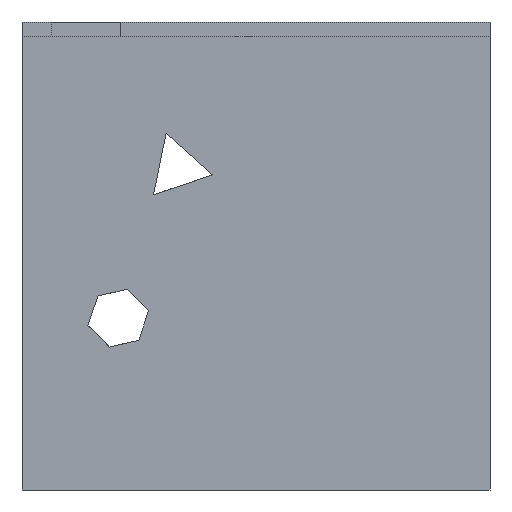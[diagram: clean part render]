
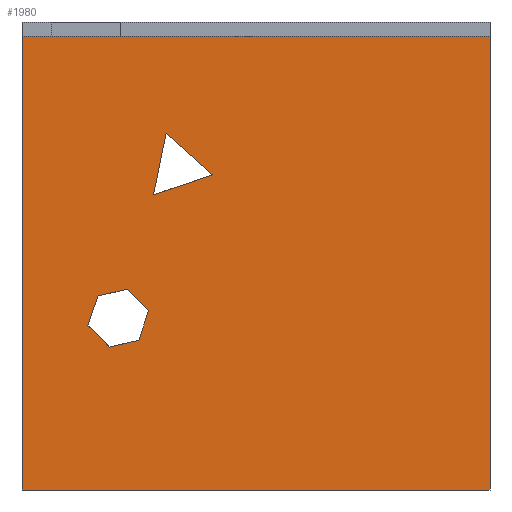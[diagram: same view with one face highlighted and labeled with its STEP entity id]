
A CAD part, front view. The second image highlights one B-rep face of the part: STEP entity #1980.
In plain terms, the highlighted planar face has unit normal (0, -1, 0).
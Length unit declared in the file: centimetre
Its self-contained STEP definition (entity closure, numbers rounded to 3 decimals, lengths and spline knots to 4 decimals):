
#19 = CARTESIAN_POINT ( 'NONE',  ( 0., 0., 969.3231 ) ) ;
#105 = EDGE_LOOP ( 'NONE', ( #2060, #611, #1339, #367 ) ) ;
#116 = FACE_BOUND ( 'NONE', #2016, .T. ) ;
#166 = VERTEX_POINT ( 'NONE', #1953 ) ;
#192 = VECTOR ( 'NONE', #692, 100. ) ;
#214 = VECTOR ( 'NONE', #2324, 100. ) ;
#243 = CARTESIAN_POINT ( 'NONE',  ( 1000., 0., 0. ) ) ;
#245 = DIRECTION ( 'NONE',  ( 0., 0., -1. ) ) ;
#249 = CARTESIAN_POINT ( 'NONE',  ( 1000., 0., 1000. ) ) ;
#265 = LINE ( 'NONE', #249, #1816 ) ;
#314 = EDGE_CURVE ( 'NONE', #328, #729, #1322, .T. ) ;
#328 = VERTEX_POINT ( 'NONE', #2099 ) ;
#331 = DIRECTION ( 'NONE',  ( 0.707, 0., -0.707 ) ) ;
#356 = ORIENTED_EDGE ( 'NONE', *, *, #2411, .T. ) ;
#367 = ORIENTED_EDGE ( 'NONE', *, *, #1511, .T. ) ;
#380 = DIRECTION ( 'NONE',  ( -0.2, 0., -0.98 ) ) ;
#392 = AXIS2_PLACEMENT_3D ( 'NONE', #894, #1666, #2445 ) ;
#400 = CARTESIAN_POINT ( 'NONE',  ( 140.9294, 0., 351.0602 ) ) ;
#411 = CARTESIAN_POINT ( 'NONE',  ( 307.8065, 0., 761.9528 ) ) ;
#448 = CARTESIAN_POINT ( 'NONE',  ( 161.7286, 0., 414.5149 ) ) ;
#488 = ORIENTED_EDGE ( 'NONE', *, *, #314, .F. ) ;
#489 = EDGE_CURVE ( 'NONE', #1643, #328, #1977, .T. ) ;
#502 = LINE ( 'NONE', #1642, #819 ) ;
#510 = VECTOR ( 'NONE', #557, 100. ) ;
#557 = DIRECTION ( 'NONE',  ( -1., 0., 0. ) ) ;
#575 = CARTESIAN_POINT ( 'NONE',  ( 161.7286, 0., 414.5149 ) ) ;
#611 = ORIENTED_EDGE ( 'NONE', *, *, #1899, .T. ) ;
#642 = LINE ( 'NONE', #400, #1752 ) ;
#643 = ORIENTED_EDGE ( 'NONE', *, *, #489, .F. ) ;
#692 = DIRECTION ( 'NONE',  ( -0.975, 0., -0.222 ) ) ;
#729 = VERTEX_POINT ( 'NONE', #2408 ) ;
#739 = ORIENTED_EDGE ( 'NONE', *, *, #936, .T. ) ;
#792 = VERTEX_POINT ( 'NONE', #1444 ) ;
#794 = DIRECTION ( 'NONE',  ( 0.948, 0., 0.317 ) ) ;
#819 = VECTOR ( 'NONE', #1985, 100. ) ;
#857 = EDGE_CURVE ( 'NONE', #2046, #1073, #265, .T. ) ;
#877 = CARTESIAN_POINT ( 'NONE',  ( 186.5792, 0., 305.4105 ) ) ;
#894 = CARTESIAN_POINT ( 'NONE',  ( 0., 0., 1000. ) ) ;
#936 = EDGE_CURVE ( 'NONE', #2437, #1603, #2463, .T. ) ;
#956 = LINE ( 'NONE', #575, #214 ) ;
#977 = CARTESIAN_POINT ( 'NONE',  ( 0., 0., 0. ) ) ;
#1017 = EDGE_CURVE ( 'NONE', #1907, #166, #2070, .T. ) ;
#1024 = VECTOR ( 'NONE', #1765, 100. ) ;
#1056 = EDGE_LOOP ( 'NONE', ( #1904, #488, #643 ) ) ;
#1061 = DIRECTION ( 'NONE',  ( 0., 0., -1. ) ) ;
#1065 = VECTOR ( 'NONE', #245, 100. ) ;
#1073 = VERTEX_POINT ( 'NONE', #243 ) ;
#1084 = DIRECTION ( 'NONE',  ( -0.311, 0., -0.95 ) ) ;
#1098 = CARTESIAN_POINT ( 'NONE',  ( 1000., 0., 969.3231 ) ) ;
#1115 = CARTESIAN_POINT ( 'NONE',  ( 224.7201, 0., 428.8624 ) ) ;
#1173 = CARTESIAN_POINT ( 'NONE',  ( 1000., 0., 969.3231 ) ) ;
#1197 = LINE ( 'NONE', #411, #2298 ) ;
#1212 = VERTEX_POINT ( 'NONE', #2035 ) ;
#1256 = ORIENTED_EDGE ( 'NONE', *, *, #1558, .T. ) ;
#1277 = VECTOR ( 'NONE', #794, 100. ) ;
#1284 = DIRECTION ( 'NONE',  ( -0.749, 0., 0.663 ) ) ;
#1286 = CARTESIAN_POINT ( 'NONE',  ( 281.0834, 0., 630.7301 ) ) ;
#1290 = LINE ( 'NONE', #1857, #1561 ) ;
#1309 = EDGE_CURVE ( 'NONE', #2153, #1907, #956, .T. ) ;
#1322 = LINE ( 'NONE', #2476, #1676 ) ;
#1339 = ORIENTED_EDGE ( 'NONE', *, *, #1808, .T. ) ;
#1384 = ORIENTED_EDGE ( 'NONE', *, *, #1309, .T. ) ;
#1444 = CARTESIAN_POINT ( 'NONE',  ( 0., 0., 0. ) ) ;
#1511 = EDGE_CURVE ( 'NONE', #792, #1073, #2140, .T. ) ;
#1531 = FACE_OUTER_BOUND ( 'NONE', #105, .T. ) ;
#1542 = VERTEX_POINT ( 'NONE', #19 ) ;
#1558 = EDGE_CURVE ( 'NONE', #1212, #2153, #642, .T. ) ;
#1561 = VECTOR ( 'NONE', #1084, 100. ) ;
#1603 = VERTEX_POINT ( 'NONE', #877 ) ;
#1642 = CARTESIAN_POINT ( 'NONE',  ( 186.5792, 0., 305.4105 ) ) ;
#1643 = VERTEX_POINT ( 'NONE', #1286 ) ;
#1666 = DIRECTION ( 'NONE',  ( 0., 1., 0. ) ) ;
#1676 = VECTOR ( 'NONE', #1284, 100. ) ;
#1679 = FACE_BOUND ( 'NONE', #1056, .T. ) ;
#1703 = ORIENTED_EDGE ( 'NONE', *, *, #1865, .T. ) ;
#1752 = VECTOR ( 'NONE', #1943, 100. ) ;
#1765 = DIRECTION ( 'NONE',  ( 1., 0., 0. ) ) ;
#1808 = EDGE_CURVE ( 'NONE', #1542, #792, #2027, .T. ) ;
#1816 = VECTOR ( 'NONE', #1061, 100. ) ;
#1857 = CARTESIAN_POINT ( 'NONE',  ( 270.3699, 0., 383.2127 ) ) ;
#1859 = PLANE ( 'NONE',  #392 ) ;
#1865 = EDGE_CURVE ( 'NONE', #1603, #1212, #502, .T. ) ;
#1899 = EDGE_CURVE ( 'NONE', #2046, #1542, #2257, .T. ) ;
#1904 = ORIENTED_EDGE ( 'NONE', *, *, #2037, .F. ) ;
#1907 = VERTEX_POINT ( 'NONE', #2080 ) ;
#1943 = DIRECTION ( 'NONE',  ( 0.311, 0., 0.95 ) ) ;
#1953 = CARTESIAN_POINT ( 'NONE',  ( 270.3699, 0., 383.2127 ) ) ;
#1970 = CARTESIAN_POINT ( 'NONE',  ( 249.5707, 0., 319.7579 ) ) ;
#1977 = LINE ( 'NONE', #2168, #1277 ) ;
#1980 = ADVANCED_FACE ( 'NONE', ( #1679, #116, #1531 ), #1859, .F. ) ;
#1985 = DIRECTION ( 'NONE',  ( -0.707, 0., 0.707 ) ) ;
#2016 = EDGE_LOOP ( 'NONE', ( #2357, #356, #739, #1703, #1256, #1384 ) ) ;
#2027 = LINE ( 'NONE', #2218, #1065 ) ;
#2035 = CARTESIAN_POINT ( 'NONE',  ( 140.9294, 0., 351.0602 ) ) ;
#2037 = EDGE_CURVE ( 'NONE', #729, #1643, #1197, .T. ) ;
#2046 = VERTEX_POINT ( 'NONE', #1173 ) ;
#2047 = VECTOR ( 'NONE', #331, 100. ) ;
#2060 = ORIENTED_EDGE ( 'NONE', *, *, #857, .F. ) ;
#2070 = LINE ( 'NONE', #1115, #2047 ) ;
#2080 = CARTESIAN_POINT ( 'NONE',  ( 224.7201, 0., 428.8624 ) ) ;
#2099 = CARTESIAN_POINT ( 'NONE',  ( 408.0872, 0., 673.1986 ) ) ;
#2140 = LINE ( 'NONE', #977, #1024 ) ;
#2153 = VERTEX_POINT ( 'NONE', #448 ) ;
#2168 = CARTESIAN_POINT ( 'NONE',  ( 281.0834, 0., 630.7301 ) ) ;
#2218 = CARTESIAN_POINT ( 'NONE',  ( 0., 0., 1000. ) ) ;
#2245 = CARTESIAN_POINT ( 'NONE',  ( 249.5707, 0., 319.7579 ) ) ;
#2257 = LINE ( 'NONE', #1098, #510 ) ;
#2298 = VECTOR ( 'NONE', #380, 100. ) ;
#2324 = DIRECTION ( 'NONE',  ( 0.975, 0., 0.222 ) ) ;
#2357 = ORIENTED_EDGE ( 'NONE', *, *, #1017, .T. ) ;
#2408 = CARTESIAN_POINT ( 'NONE',  ( 307.8065, 0., 761.9528 ) ) ;
#2411 = EDGE_CURVE ( 'NONE', #166, #2437, #1290, .T. ) ;
#2437 = VERTEX_POINT ( 'NONE', #1970 ) ;
#2445 = DIRECTION ( 'NONE',  ( 0., 0., 1. ) ) ;
#2463 = LINE ( 'NONE', #2245, #192 ) ;
#2476 = CARTESIAN_POINT ( 'NONE',  ( 408.0872, 0., 673.1986 ) ) ;
